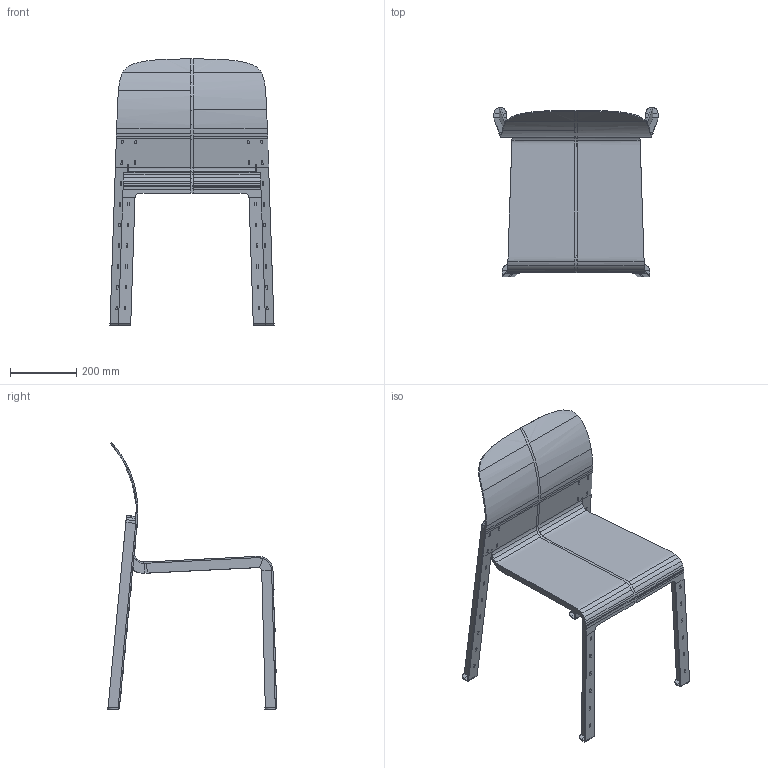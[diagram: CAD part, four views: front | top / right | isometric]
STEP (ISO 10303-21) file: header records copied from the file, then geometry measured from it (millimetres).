
FILE_DESCRIPTION(/* description */ (''),/* implementation_level */ '2;1');
FILE_NAME(/* name */ 'FRAMA_Rivet-Chair-3D',/* time_stamp */ '2025-10-22T10:00:02+02:00',/* author */ (''),/* organization */ (''),/* preprocessor_version */ 'ST-DEVELOPER v16.5',/* originating_system */ 'Rhino 7.38',/* authorisation */ '');
FILE_SCHEMA (('CONFIG_CONTROL_DESIGN'));
Length unit declared in the file: millimetre
Products named in the file (1): Document
Bounding box: 495.15 x 511.57 x 804.31 mm (x, y, z)
Volume: 1980670.4 mm3; surface area: 1074006.4 mm2
Topology: 3 solids, 3 shells, 1046 faces, 2776 edges, 1728 vertices
Faces by surface type: plane 599, bspline 421, cylinder 26
Entity records: 41182 total; most frequent: CARTESIAN_POINT 22805, ORIENTED_EDGE 5552, EDGE_CURVE 2776, B_SPLINE_CURVE_WITH_KNOTS 2701, VERTEX_POINT 1728, EDGE_LOOP 1114, ADVANCED_FACE 1046, FACE_OUTER_BOUND 1046
